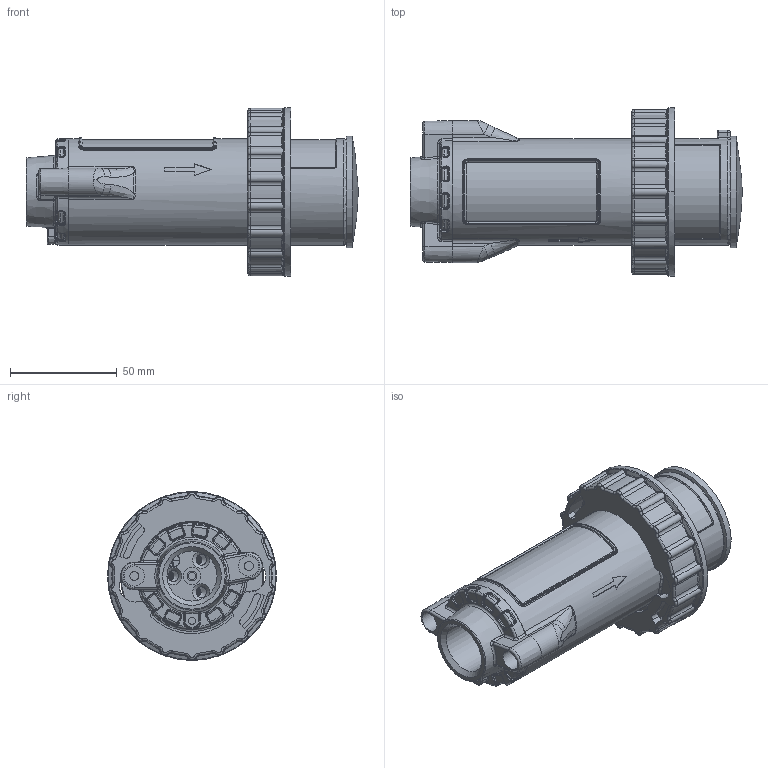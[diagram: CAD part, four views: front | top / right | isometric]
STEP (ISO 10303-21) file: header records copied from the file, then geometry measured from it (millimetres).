
FILE_DESCRIPTION (( 'STEP AP214' ), '1' );
FILE_NAME ('ÂÃÌ-16-415-3_Ì25õ1,5_Ì2.STEP', '2024-01-24T12:35:00', ( '' ), ( '' ), 'SwSTEP 2.0', 'SolidWorks 2018', '' );
FILE_SCHEMA (( 'AUTOMOTIVE_DESIGN' ));
Length unit declared in the file: millimetre
Products named in the file (1): ÂÃÌ-16-415-3_Ì25õ1,5_Ì2
Bounding box: 155.6 x 79 x 79 mm (x, y, z)
Volume: 178906.3 mm3; surface area: 108731.9 mm2
Topology: 13 solids, 13 shells, 1388 faces, 3284 edges, 1950 vertices
Faces by surface type: cylinder 426, bspline 265, torus 261, plane 242, cone 177, sphere 17
Full cylindrical faces by diameter (mm): 3.3 x20, 4 x55, 4.3 x4, 4.5 x7, 5 x8, 5.1 x2, 5.4 x1, 6 x3, 7 x1, 7.1 x1, 8 x1, 9 x3, 9.5 x5, 23.5 x1, 27 x1, 37 x1, 40 x1, 42.5 x1, 43 x3, 50 x2, 52.207 x1
Entity records: 72907 total; most frequent: CARTESIAN_POINT 29070, ORIENTED_EDGE 5816, DIRECTION 5511, EDGE_CURVE 2908, AXIS2_PLACEMENT_3D 2380, VERTEX_POINT 1866, EDGE_LOOP 1762, FACE_OUTER_BOUND 1517
